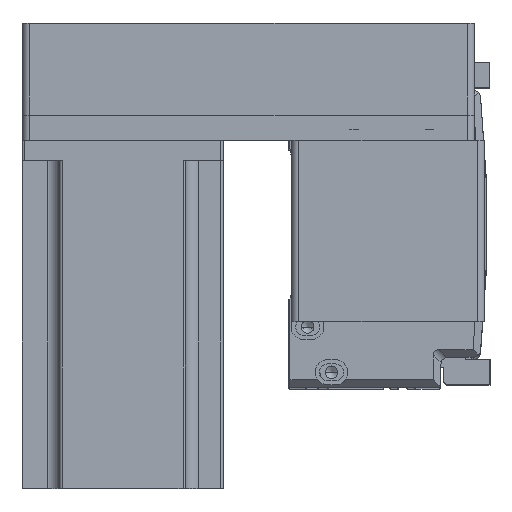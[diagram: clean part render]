
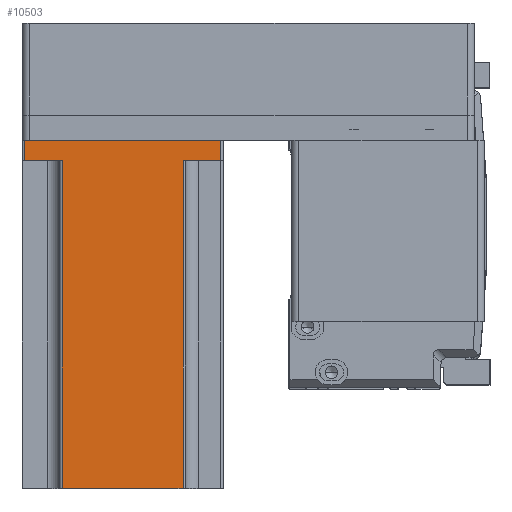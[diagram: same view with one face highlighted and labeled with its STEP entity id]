
A CAD part, top view. The second image highlights one B-rep face of the part: STEP entity #10503.
In plain terms, the highlighted planar face has unit normal (0, 0, 1) as drawn and (0, 1, 0) by its records, which use the part's own axes.
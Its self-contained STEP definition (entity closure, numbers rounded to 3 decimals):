
#326 = CARTESIAN_POINT ( 'NONE',  ( 24., 40., 138.3 ) ) ;
#360 = LINE ( 'NONE', #26099, #8371 ) ;
#1147 = VERTEX_POINT ( 'NONE', #5545 ) ;
#1568 = EDGE_CURVE ( 'NONE', #20923, #37155, #6285, .T. ) ;
#2902 = CARTESIAN_POINT ( 'NONE',  ( 39., 40., 8. ) ) ;
#4046 = CARTESIAN_POINT ( 'NONE',  ( -39., 40., 8. ) ) ;
#4213 = DIRECTION ( 'NONE',  ( 0., 0., 1. ) ) ;
#5040 = PLANE ( 'NONE',  #28137 ) ;
#5545 = CARTESIAN_POINT ( 'NONE',  ( -39., 40., 0. ) ) ;
#6185 = ORIENTED_EDGE ( 'NONE', *, *, #1568, .T. ) ;
#6285 = LINE ( 'NONE', #40515, #41125 ) ;
#6824 = ORIENTED_EDGE ( 'NONE', *, *, #42083, .F. ) ;
#7273 = VECTOR ( 'NONE', #24687, 1000. ) ;
#8371 = VECTOR ( 'NONE', #39333, 1000. ) ;
#8733 = EDGE_CURVE ( 'NONE', #41825, #18865, #26690, .T. ) ;
#8921 = FACE_OUTER_BOUND ( 'NONE', #19908, .T. ) ;
#10503 = ADVANCED_FACE ( 'NONE', ( #8921 ), #5040, .F. ) ;
#10596 = EDGE_CURVE ( 'NONE', #18865, #1147, #29624, .T. ) ;
#10711 = LINE ( 'NONE', #28968, #35568 ) ;
#10964 = EDGE_CURVE ( 'NONE', #41825, #29760, #24884, .T. ) ;
#12075 = DIRECTION ( 'NONE',  ( 1., 0., 0. ) ) ;
#12094 = DIRECTION ( 'NONE',  ( 0., -1., 0. ) ) ;
#12886 = ORIENTED_EDGE ( 'NONE', *, *, #31996, .T. ) ;
#14577 = DIRECTION ( 'NONE',  ( -1., 0., 0. ) ) ;
#15480 = ORIENTED_EDGE ( 'NONE', *, *, #10596, .T. ) ;
#15766 = VERTEX_POINT ( 'NONE', #4046 ) ;
#17341 = VERTEX_POINT ( 'NONE', #326 ) ;
#18013 = CARTESIAN_POINT ( 'NONE',  ( 25., 40., 8. ) ) ;
#18723 = VECTOR ( 'NONE', #20661, 1000. ) ;
#18865 = VERTEX_POINT ( 'NONE', #22899 ) ;
#19253 = CARTESIAN_POINT ( 'NONE',  ( -39., 40., 138.3 ) ) ;
#19908 = EDGE_LOOP ( 'NONE', ( #12886, #6185, #6824, #23668, #23982, #37384, #15480, #31595 ) ) ;
#20661 = DIRECTION ( 'NONE',  ( 0., 0., -1. ) ) ;
#20750 = CARTESIAN_POINT ( 'NONE',  ( -24., 40., 8. ) ) ;
#20923 = VERTEX_POINT ( 'NONE', #20750 ) ;
#21257 = CARTESIAN_POINT ( 'NONE',  ( 40., 40., 138.3 ) ) ;
#22704 = DIRECTION ( 'NONE',  ( 0., 0., 1. ) ) ;
#22899 = CARTESIAN_POINT ( 'NONE',  ( 39., 40., 0. ) ) ;
#23668 = ORIENTED_EDGE ( 'NONE', *, *, #38843, .T. ) ;
#23982 = ORIENTED_EDGE ( 'NONE', *, *, #10964, .F. ) ;
#24255 = CARTESIAN_POINT ( 'NONE',  ( 39., 40., 138.3 ) ) ;
#24687 = DIRECTION ( 'NONE',  ( -1., 0., 0. ) ) ;
#24884 = LINE ( 'NONE', #18013, #28529 ) ;
#25721 = LINE ( 'NONE', #19253, #40300 ) ;
#26099 = CARTESIAN_POINT ( 'NONE',  ( 24., 40., 138.3 ) ) ;
#26477 = LINE ( 'NONE', #21257, #7273 ) ;
#26690 = LINE ( 'NONE', #24255, #18723 ) ;
#27495 = CARTESIAN_POINT ( 'NONE',  ( -24., 40., 138.3 ) ) ;
#28137 = AXIS2_PLACEMENT_3D ( 'NONE', #32364, #12094, #35712 ) ;
#28529 = VECTOR ( 'NONE', #14577, 1000. ) ;
#28570 = VECTOR ( 'NONE', #29415, 1000. ) ;
#28968 = CARTESIAN_POINT ( 'NONE',  ( -25., 40., 8. ) ) ;
#29415 = DIRECTION ( 'NONE',  ( -1., 0., 0. ) ) ;
#29624 = LINE ( 'NONE', #42665, #28570 ) ;
#29760 = VERTEX_POINT ( 'NONE', #42670 ) ;
#31550 = EDGE_CURVE ( 'NONE', #1147, #15766, #25721, .T. ) ;
#31595 = ORIENTED_EDGE ( 'NONE', *, *, #31550, .T. ) ;
#31996 = EDGE_CURVE ( 'NONE', #15766, #20923, #10711, .T. ) ;
#32364 = CARTESIAN_POINT ( 'NONE',  ( 40., 40., 138.3 ) ) ;
#35568 = VECTOR ( 'NONE', #12075, 1000. ) ;
#35712 = DIRECTION ( 'NONE',  ( 1., 0., 0. ) ) ;
#37155 = VERTEX_POINT ( 'NONE', #27495 ) ;
#37384 = ORIENTED_EDGE ( 'NONE', *, *, #8733, .T. ) ;
#38843 = EDGE_CURVE ( 'NONE', #17341, #29760, #360, .T. ) ;
#39333 = DIRECTION ( 'NONE',  ( 0., 0., -1. ) ) ;
#40300 = VECTOR ( 'NONE', #22704, 1000. ) ;
#40515 = CARTESIAN_POINT ( 'NONE',  ( -24., 40., 138.3 ) ) ;
#41125 = VECTOR ( 'NONE', #4213, 1000. ) ;
#41825 = VERTEX_POINT ( 'NONE', #2902 ) ;
#42083 = EDGE_CURVE ( 'NONE', #17341, #37155, #26477, .T. ) ;
#42665 = CARTESIAN_POINT ( 'NONE',  ( 40., 40., 0. ) ) ;
#42670 = CARTESIAN_POINT ( 'NONE',  ( 24., 40., 8. ) ) ;
